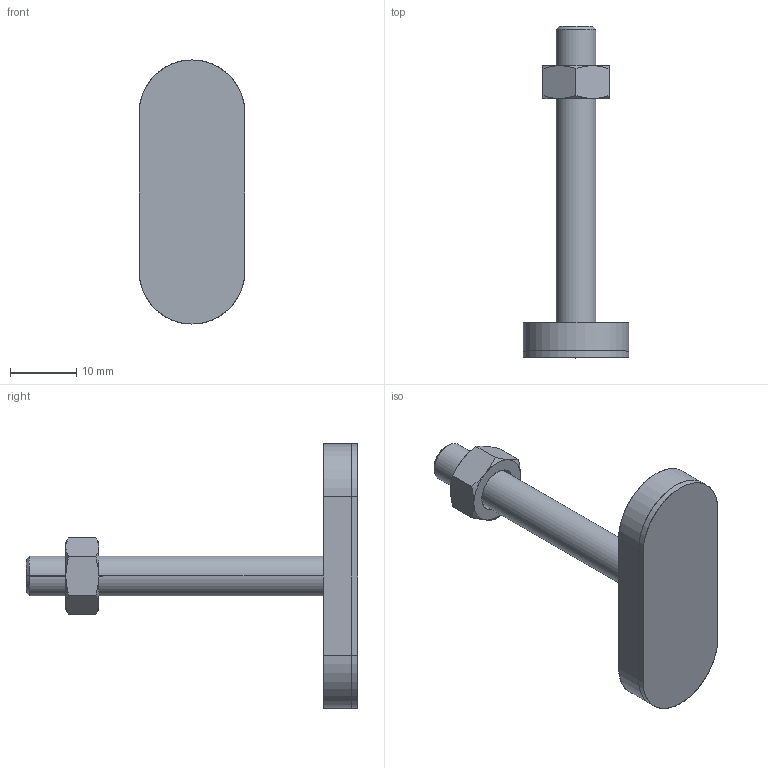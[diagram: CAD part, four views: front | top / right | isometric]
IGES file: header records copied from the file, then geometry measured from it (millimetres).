
Start section: SolidWorks IGES file using analytic representation for surfaces
Global section: file name: C:\Projetos\Ponteiras\PF\PF-M6 - 51x40.IGS; native system: SolidWorks 2014; preprocessor: SolidWorks 2014; author: Ricardo; date: 150721.091742; units: millimetre
Bounding box: 16 x 50.25 x 40 mm (x, y, z)
Surface area: 4343.4 mm2 (no closed solid volume)
Topology: 0 solids, 0 shells, 63 faces, 720 edges, 720 vertices
Faces by surface type: revolution 32, bspline 31
